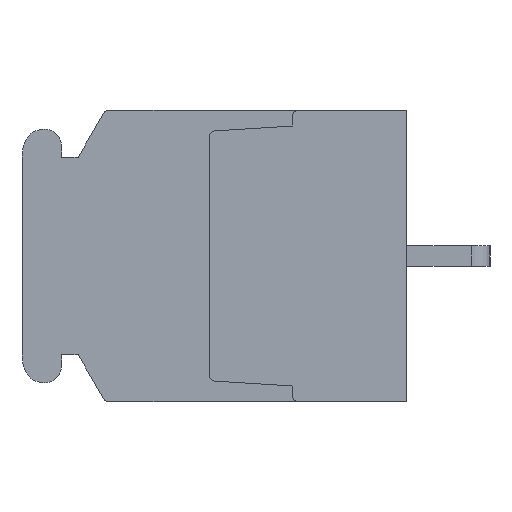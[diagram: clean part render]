
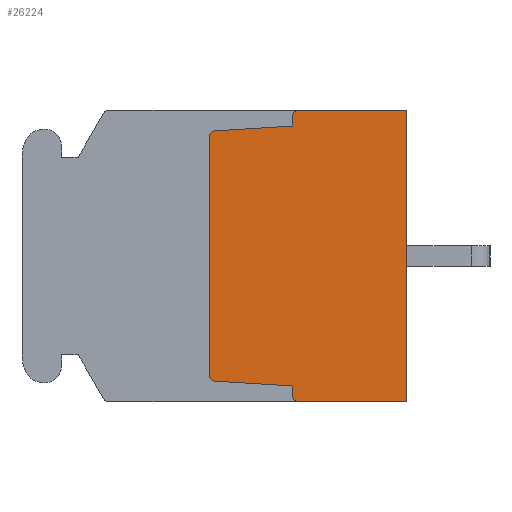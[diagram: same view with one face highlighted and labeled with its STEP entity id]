
A CAD part, left-side view. The second image highlights one B-rep face of the part: STEP entity #26224.
In plain terms, the highlighted planar face has unit normal (-1, 0, 0).
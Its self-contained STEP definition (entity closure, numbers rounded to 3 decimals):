
#1225=CIRCLE('',#28228,0.3);
#1226=CIRCLE('',#28229,0.3);
#1227=CIRCLE('',#28230,0.3);
#1228=CIRCLE('',#28231,0.3);
#2353=VERTEX_POINT('',#36958);
#2356=VERTEX_POINT('',#36963);
#2376=VERTEX_POINT('',#37010);
#2424=VERTEX_POINT('',#37147);
#3731=VERTEX_POINT('',#41785);
#3732=VERTEX_POINT('',#41786);
#3733=VERTEX_POINT('',#41788);
#3734=VERTEX_POINT('',#41790);
#3735=VERTEX_POINT('',#41792);
#3736=VERTEX_POINT('',#41794);
#3737=VERTEX_POINT('',#41797);
#3738=VERTEX_POINT('',#41799);
#5037=VECTOR('',#30472,1.);
#5063=VECTOR('',#30499,1.);
#5117=VECTOR('',#30611,1.);
#6595=VECTOR('',#33594,1.);
#6596=VECTOR('',#33597,1.);
#6597=VECTOR('',#33598,1.);
#6598=VECTOR('',#33603,1.);
#6599=VECTOR('',#33604,1.);
#7938=LINE('',#36964,#5037);
#7964=LINE('',#37011,#5063);
#8018=LINE('',#37146,#5117);
#9496=LINE('',#41787,#6595);
#9497=LINE('',#41791,#6596);
#9498=LINE('',#41793,#6597);
#9499=LINE('',#41798,#6598);
#9500=LINE('',#41800,#6599);
#11217=EDGE_CURVE('',#2356,#2353,#7938,.T.);
#11243=EDGE_CURVE('',#2376,#2356,#7964,.T.);
#11313=EDGE_CURVE('',#2353,#2424,#8018,.T.);
#13348=EDGE_CURVE('',#3731,#3732,#1225,.T.);
#13349=EDGE_CURVE('',#3733,#3731,#9496,.T.);
#13350=EDGE_CURVE('',#3734,#3733,#1226,.T.);
#13351=EDGE_CURVE('',#3735,#3734,#9497,.T.);
#13352=EDGE_CURVE('',#3736,#3735,#9498,.T.);
#13353=EDGE_CURVE('',#2424,#3736,#1227,.T.);
#13354=EDGE_CURVE('',#3737,#2376,#1228,.T.);
#13355=EDGE_CURVE('',#3738,#3737,#9499,.T.);
#13356=EDGE_CURVE('',#3732,#3738,#9500,.T.);
#20775=ORIENTED_EDGE('',*,*,#13348,.F.);
#20776=ORIENTED_EDGE('',*,*,#13349,.F.);
#20777=ORIENTED_EDGE('',*,*,#13350,.F.);
#20778=ORIENTED_EDGE('',*,*,#13351,.F.);
#20779=ORIENTED_EDGE('',*,*,#13352,.F.);
#20780=ORIENTED_EDGE('',*,*,#13353,.F.);
#20781=ORIENTED_EDGE('',*,*,#11313,.F.);
#20782=ORIENTED_EDGE('',*,*,#11217,.F.);
#20783=ORIENTED_EDGE('',*,*,#11243,.F.);
#20784=ORIENTED_EDGE('',*,*,#13354,.F.);
#20785=ORIENTED_EDGE('',*,*,#13355,.F.);
#20786=ORIENTED_EDGE('',*,*,#13356,.F.);
#23170=EDGE_LOOP('',(#20775,#20776,#20777,#20778,#20779,#20780,#20781,#20782,
#20783,#20784,#20785,#20786));
#24752=FACE_BOUND('',#23170,.T.);
#26224=ADVANCED_FACE('',(#24752),#44219,.F.);
#28227=AXIS2_PLACEMENT_3D('',#41783,#33591,$);
#28228=AXIS2_PLACEMENT_3D('',#41784,#33592,#33593);
#28229=AXIS2_PLACEMENT_3D('',#41789,#33595,#33596);
#28230=AXIS2_PLACEMENT_3D('',#41795,#33599,#33600);
#28231=AXIS2_PLACEMENT_3D('',#41796,#33601,#33602);
#30472=DIRECTION('',(0.,0.,-1.));
#30499=DIRECTION('',(0.,-1.,0.));
#30611=DIRECTION('',(0.,1.,0.));
#33591=DIRECTION('',(1.,0.,0.));
#33592=DIRECTION('',(1.,0.,0.));
#33593=DIRECTION('',(0.,0.,-0.3));
#33594=DIRECTION('',(0.,0.,1.));
#33595=DIRECTION('',(1.,0.,0.));
#33596=DIRECTION('',(0.,0.,-0.3));
#33597=DIRECTION('',(0.,0.998,0.062));
#33598=DIRECTION('',(0.,0.,1.));
#33599=DIRECTION('',(1.,0.,0.));
#33600=DIRECTION('',(0.,0.,-0.3));
#33601=DIRECTION('',(1.,0.,0.));
#33602=DIRECTION('',(0.,0.,-0.3));
#33603=DIRECTION('',(0.,0.,1.));
#33604=DIRECTION('',(0.,-0.998,0.062));
#36958=CARTESIAN_POINT('',(0.,0.,-7.));
#36963=CARTESIAN_POINT('',(0.,0.,7.));
#36964=CARTESIAN_POINT('',(0.,0.,7.));
#37010=CARTESIAN_POINT('',(0.,5.2,7.));
#37011=CARTESIAN_POINT('',(0.,5.2,7.));
#37146=CARTESIAN_POINT('',(0.,0.,-7.));
#37147=CARTESIAN_POINT('',(0.,5.2,-7.));
#41783=CARTESIAN_POINT('',(0.,4.541,0.));
#41784=CARTESIAN_POINT('',(0.,9.2,5.718));
#41785=CARTESIAN_POINT('',(0.,9.5,5.718));
#41786=CARTESIAN_POINT('',(0.,9.219,6.018));
#41787=CARTESIAN_POINT('',(0.,9.5,-5.718));
#41788=CARTESIAN_POINT('',(0.,9.5,-5.718));
#41789=CARTESIAN_POINT('',(0.,9.2,-5.718));
#41790=CARTESIAN_POINT('',(0.,9.219,-6.018));
#41791=CARTESIAN_POINT('',(0.,5.5,-6.25));
#41792=CARTESIAN_POINT('',(0.,5.5,-6.25));
#41793=CARTESIAN_POINT('',(0.,5.5,-6.7));
#41794=CARTESIAN_POINT('',(0.,5.5,-6.7));
#41795=CARTESIAN_POINT('',(0.,5.2,-6.7));
#41796=CARTESIAN_POINT('',(0.,5.2,6.7));
#41797=CARTESIAN_POINT('',(0.,5.5,6.7));
#41798=CARTESIAN_POINT('',(0.,5.5,6.25));
#41799=CARTESIAN_POINT('',(0.,5.5,6.25));
#41800=CARTESIAN_POINT('',(0.,9.219,6.018));
#44219=PLANE('',#28227);
